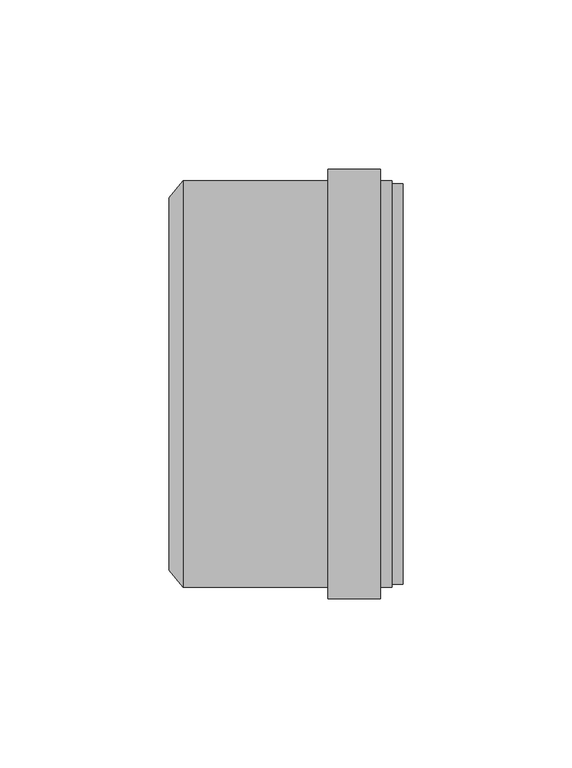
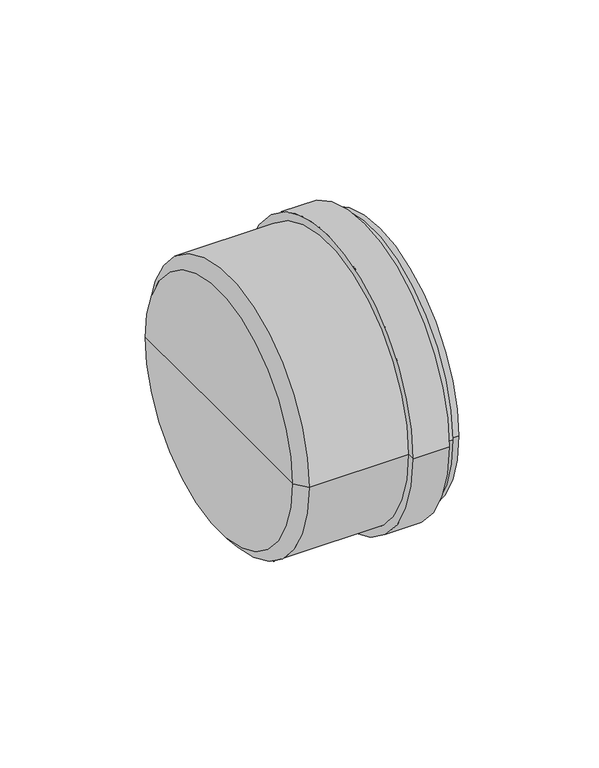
"""IFC4 building model written with IfcOpenShell, lengths in millimetres: pipe fitting geometry, pf_KGM_zatka : pf_KGM_zatka."""

from ifc_helpers import new_model, si_unit, frame, origin, place, context, project, spatial, polyline, circle_curve, source, transform, mapped, element, save
from ifc_brep_helpers import plane_surface, cylinder_surface, revolved_surface, advanced_brep


def pipe_fitting_8ffdc7c7(model_context):
    return source(origin(), model_context, "Body", "AdvancedBrep", [
        advanced_brep(
        [(-66.0, -55.0, 0.0), (-66.0, 55.0, 0.0), (-61.8, 60.1, 0.0), (-61.8, -60.1, 0.0), (-66.0, 0.0, 0.0), (0.0, -60.1, 0.0), (0.0, 60.1, 0.0), (0.0, 55.0, 0.0), (0.0, -55.0, 0.0), (-3.4, -60.1, 0.0), (-3.4, 60.1, 0.0), (-3.4, -63.5, 0.0), (-3.4, 63.5, 0.0), (-18.9, -63.5, 0.0), (-18.9, 63.5, 0.0), (-18.9, -60.1, 0.0), (-18.9, 60.1, 0.0), (-61.8, -55.0, 0.0), (-61.8, 55.0, 0.0), (-61.8, 0.0, 0.0)],
        [
            (0, 1, circle_curve(frame((-66.0, 0.0, 0.0), z_axis=(1.0, 0.0, 0.0), x_axis=(0.0, 1.0, 0.0)), 55.0)),
            (1, 2),
            (2, 3, circle_curve(frame((-61.8, 0.0, 0.0), z_axis=(-1.0, 0.0, 0.0), x_axis=(0.0, 1.0, 0.0)), 60.1)),
            (3, 0),
            (1, 0, circle_curve(frame((-66.0, 0.0, 0.0), z_axis=(1.0, 0.0, 0.0), x_axis=(0.0, 1.0, 0.0)), 55.0)),
            (3, 2, circle_curve(frame((-61.8, 0.0, 0.0), z_axis=(-1.0, 0.0, 0.0), x_axis=(0.0, 1.0, 0.0)), 60.1)),
            (4, 1),
            (0, 4),
            (5, 6, circle_curve(frame((0.0, 0.0, 0.0), z_axis=(1.0, 0.0, 0.0), x_axis=(0.0, 1.0, 0.0)), 60.1)),
            (6, 7),
            (7, 8, circle_curve(frame((0.0, 0.0, 0.0), z_axis=(-1.0, 0.0, 0.0), x_axis=(0.0, 1.0, 0.0)), 55.0)),
            (8, 5),
            (6, 5, circle_curve(frame((0.0, 0.0, 0.0), z_axis=(1.0, 0.0, 0.0), x_axis=(0.0, 1.0, 0.0)), 60.1)),
            (8, 7, circle_curve(frame((0.0, 0.0, 0.0), z_axis=(-1.0, 0.0, 0.0), x_axis=(0.0, 1.0, 0.0)), 55.0)),
            (9, 10, circle_curve(frame((-3.4, 0.0, 0.0), z_axis=(1.0, 0.0, 0.0), x_axis=(0.0, 1.0, 0.0)), 60.1)),
            (10, 6),
            (5, 9),
            (10, 9, circle_curve(frame((-3.4, 0.0, 0.0), z_axis=(1.0, 0.0, 0.0), x_axis=(0.0, 1.0, 0.0)), 60.1)),
            (11, 12, circle_curve(frame((-3.4, 0.0, 0.0), z_axis=(1.0, 0.0, 0.0), x_axis=(0.0, 1.0, 0.0)), 63.5)),
            (12, 10),
            (9, 11),
            (12, 11, circle_curve(frame((-3.4, 0.0, 0.0), z_axis=(1.0, 0.0, 0.0), x_axis=(0.0, 1.0, 0.0)), 63.5)),
            (13, 14, circle_curve(frame((-18.9, 0.0, 0.0), z_axis=(1.0, 0.0, 0.0), x_axis=(0.0, 1.0, 0.0)), 63.5)),
            (14, 12),
            (11, 13),
            (14, 13, circle_curve(frame((-18.9, 0.0, 0.0), z_axis=(1.0, 0.0, 0.0), x_axis=(0.0, 1.0, 0.0)), 63.5)),
            (15, 16, circle_curve(frame((-18.9, 0.0, 0.0), z_axis=(1.0, 0.0, 0.0), x_axis=(0.0, 1.0, 0.0)), 60.1)),
            (16, 14),
            (13, 15),
            (16, 15, circle_curve(frame((-18.9, 0.0, 0.0), z_axis=(1.0, 0.0, 0.0), x_axis=(0.0, 1.0, 0.0)), 60.1)),
            (2, 16),
            (15, 3),
            (17, 18, circle_curve(frame((-61.8, 0.0, 0.0), z_axis=(1.0, 0.0, 0.0), x_axis=(0.0, 1.0, 0.0)), 55.0)),
            (18, 19),
            (19, 17),
            (18, 17, circle_curve(frame((-61.8, 0.0, 0.0), z_axis=(1.0, 0.0, 0.0), x_axis=(0.0, 1.0, 0.0)), 55.0)),
            (7, 18),
            (17, 8),
        ],
        [
            revolved_surface(polyline([(-61.8, 60.1, 0.0), (-66.0, 55.0, 0.0)]), (-66.0, 0.0, 0.0), (-1.0, 0.0, 0.0)),
            plane_surface(frame((-66.0, 0.0, 0.0), z_axis=(-1.0, 0.0, 0.0), x_axis=(0.0, 1.0, 0.0))),
            plane_surface(frame((0.0, 0.0, 0.0), z_axis=(1.0, 0.0, 0.0), x_axis=(0.0, 1.0, 0.0))),
            cylinder_surface(frame((-66.0, 0.0, 0.0), z_axis=(-1.0, 0.0, 0.0), x_axis=(0.0, 1.0, 0.0)), 60.1),
            plane_surface(frame((-3.4, 0.0, 0.0), z_axis=(1.0, 0.0, 0.0), x_axis=(0.0, 1.0, 0.0))),
            cylinder_surface(frame((-66.0, 0.0, 0.0), z_axis=(-1.0, 0.0, 0.0), x_axis=(0.0, 1.0, 0.0)), 63.5),
            plane_surface(frame((-18.9, 0.0, 0.0), z_axis=(-1.0, 0.0, 0.0), x_axis=(0.0, 1.0, 0.0))),
            plane_surface(frame((-61.8, 0.0, 0.0), z_axis=(1.0, 0.0, 0.0), x_axis=(0.0, 1.0, 0.0))),
            revolved_surface(polyline([(-61.8, 55.0, 0.0), (0.0, 55.0, 0.0)]), (-66.0, 0.0, 0.0), (-1.0, 0.0, 0.0)),
        ],
        [
            (0, [[1, 2, 3, 4]]),
            (0, [[5, -4, 6, -2]]),
            (1, [[7, -1, 8]]),
            (1, [[-8, -5, -7]]),
            (2, [[9, 10, 11, 12]]),
            (2, [[13, -12, 14, -10]]),
            (3, [[15, 16, -9, 17]]),
            (3, [[18, -17, -13, -16]]),
            (4, [[19, 20, -15, 21]]),
            (4, [[22, -21, -18, -20]]),
            (5, [[23, 24, -19, 25]]),
            (5, [[26, -25, -22, -24]]),
            (6, [[27, 28, -23, 29]]),
            (6, [[30, -29, -26, -28]]),
            (3, [[-3, 31, -27, 32]]),
            (3, [[-6, -32, -30, -31]]),
            (7, [[33, 34, 35]]),
            (7, [[36, -35, -34]]),
            (8, [[-11, 37, -33, 38]]),
            (8, [[-14, -38, -36, -37]]),
        ],
    ),
        advanced_brep(
        [(-42.0, 0.0, 0.0), (-42.0, 55.0, 0.0), (-42.0, -55.0, 0.0), (3.2, -59.14, 0.0), (3.2, 59.14, 0.0), (3.2, 0.0, 0.0), (0.0, -59.14, 0.0), (0.0, 59.14, 0.0), (0.0, -55.94, 0.0), (0.0, 55.94, 0.0), (-38.0, -55.94, 0.0), (-38.0, 55.94, 0.0)],
        [
            (0, 1),
            (1, 2, circle_curve(frame((-42.0, 0.0, 0.0), z_axis=(-1.0, 0.0, 0.0), x_axis=(0.0, 1.0, 0.0)), 55.0)),
            (2, 0),
            (2, 1, circle_curve(frame((-42.0, 0.0, 0.0), z_axis=(-1.0, 0.0, 0.0), x_axis=(0.0, 1.0, 0.0)), 55.0)),
            (3, 4, circle_curve(frame((3.2, 0.0, 0.0), z_axis=(1.0, 0.0, 0.0), x_axis=(0.0, 1.0, 0.0)), 59.14)),
            (4, 5),
            (5, 3),
            (4, 3, circle_curve(frame((3.2, 0.0, 0.0), z_axis=(1.0, 0.0, 0.0), x_axis=(0.0, 1.0, 0.0)), 59.14)),
            (6, 7, circle_curve(frame((0.0, 0.0, 0.0), z_axis=(1.0, 0.0, 0.0), x_axis=(0.0, 1.0, 0.0)), 59.14)),
            (7, 4),
            (3, 6),
            (7, 6, circle_curve(frame((0.0, 0.0, 0.0), z_axis=(1.0, 0.0, 0.0), x_axis=(0.0, 1.0, 0.0)), 59.14)),
            (8, 9, circle_curve(frame((0.0, 0.0, 0.0), z_axis=(1.0, 0.0, 0.0), x_axis=(0.0, 1.0, 0.0)), 55.94)),
            (9, 7),
            (6, 8),
            (9, 8, circle_curve(frame((0.0, 0.0, 0.0), z_axis=(1.0, 0.0, 0.0), x_axis=(0.0, 1.0, 0.0)), 55.94)),
            (10, 11, circle_curve(frame((-38.0, 0.0, 0.0), z_axis=(1.0, 0.0, 0.0), x_axis=(0.0, 1.0, 0.0)), 55.94)),
            (11, 9),
            (8, 10),
            (11, 10, circle_curve(frame((-38.0, 0.0, 0.0), z_axis=(1.0, 0.0, 0.0), x_axis=(0.0, 1.0, 0.0)), 55.94)),
            (1, 11),
            (10, 2),
        ],
        [
            plane_surface(frame((-42.0, 0.0, 0.0), z_axis=(-1.0, 0.0, 0.0), x_axis=(0.0, 1.0, 0.0))),
            plane_surface(frame((3.2, 0.0, 0.0), z_axis=(1.0, 0.0, 0.0), x_axis=(0.0, 1.0, 0.0))),
            cylinder_surface(frame((-41.0241529, 0.0, 0.0), z_axis=(-1.0, 0.0, 0.0), x_axis=(0.0, 1.0, 0.0)), 59.14),
            plane_surface(frame((0.0, 0.0, 0.0), z_axis=(-1.0, 0.0, 0.0), x_axis=(0.0, 1.0, 0.0))),
            cylinder_surface(frame((-41.0241529, 0.0, 0.0), z_axis=(-1.0, 0.0, 0.0), x_axis=(0.0, 1.0, 0.0)), 55.94),
            revolved_surface(polyline([(-38.0, 55.94, 0.0), (-42.0, 55.0, 0.0)]), (-41.0241529, 0.0, 0.0), (-1.0, 0.0, 0.0)),
        ],
        [
            (0, [[1, 2, 3]]),
            (0, [[-3, 4, -1]]),
            (1, [[5, 6, 7]]),
            (1, [[8, -7, -6]]),
            (2, [[9, 10, -5, 11]]),
            (2, [[12, -11, -8, -10]]),
            (3, [[13, 14, -9, 15]]),
            (3, [[16, -15, -12, -14]]),
            (4, [[17, 18, -13, 19]]),
            (4, [[20, -19, -16, -18]]),
            (5, [[-2, 21, -17, 22]]),
            (5, [[-4, -22, -20, -21]]),
        ],
    ),
    ])


if __name__ == "__main__":
    model = new_model("IFC4")
    model_context = context("Model", 3, world=origin())
    ifc_project = project(units=[si_unit("LENGTHUNIT", "METRE", prefix="MILLI")], contexts=[model_context])
    site = spatial("IfcSite", under=ifc_project)
    building = spatial("IfcBuilding", under=site)
    placement = place(None, origin())
    pipe_fitting_shape = pipe_fitting_8ffdc7c7(model_context)
    element("IfcPipeFitting", 1, ObjectType="pf_KGM_zatka : pf_KGM_zatka", at=placement, inside=building, context=model_context, shape_type="MappedRepresentation", body=[
        mapped(pipe_fitting_shape, transform((0.0, 0.0, 0.0), x_axis=(1.0, 0.0, 0.0), y_axis=(0.0, 1.0, 0.0), z_axis=(0.0, 0.0, 1.0))),
    ])
    save(model, "model.ifc")
